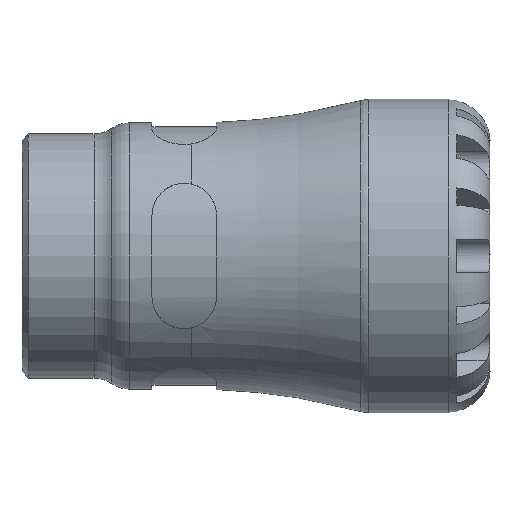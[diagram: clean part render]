
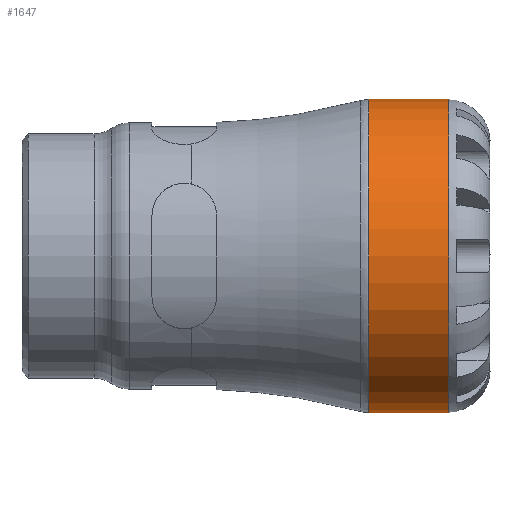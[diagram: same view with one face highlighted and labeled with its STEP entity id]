
A CAD part, front view. The second image highlights one B-rep face of the part: STEP entity #1647.
In plain terms, the highlighted cylindrical face has radius 42.5 mm (diameter 85 mm), a full revolution.
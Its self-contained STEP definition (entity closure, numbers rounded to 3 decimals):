
#259=FACE_BOUND('',#422,.T.);
#301=FACE_OUTER_BOUND('',#421,.T.);
#421=EDGE_LOOP('',(#1250));
#422=EDGE_LOOP('',(#1251));
#560=CIRCLE('',#1814,42.5);
#561=CIRCLE('',#1816,42.5);
#748=VERTEX_POINT('',#2942);
#749=VERTEX_POINT('',#2945);
#932=EDGE_CURVE('',#748,#748,#560,.T.);
#933=EDGE_CURVE('',#749,#749,#561,.T.);
#1250=ORIENTED_EDGE('',*,*,#933,.F.);
#1251=ORIENTED_EDGE('',*,*,#932,.F.);
#1594=CYLINDRICAL_SURFACE('',#1815,42.5);
#1647=ADVANCED_FACE('',(#301,#259),#1594,.T.);
#1814=AXIS2_PLACEMENT_3D('',#2943,#2127,#2128);
#1815=AXIS2_PLACEMENT_3D('',#2944,#2129,#2130);
#1816=AXIS2_PLACEMENT_3D('',#2946,#2131,#2132);
#2127=DIRECTION('center_axis',(-1.,0.,0.));
#2128=DIRECTION('ref_axis',(0.,-1.,0.));
#2129=DIRECTION('center_axis',(1.,0.,0.));
#2130=DIRECTION('ref_axis',(0.,1.,0.));
#2131=DIRECTION('center_axis',(1.,0.,0.));
#2132=DIRECTION('ref_axis',(0.,0.,-1.));
#2942=CARTESIAN_POINT('',(94.12,42.5,0.));
#2943=CARTESIAN_POINT('Origin',(94.12,0.,0.));
#2944=CARTESIAN_POINT('Origin',(104.365,0.,0.));
#2945=CARTESIAN_POINT('',(115.75,42.5,0.));
#2946=CARTESIAN_POINT('Origin',(115.75,0.,0.));
